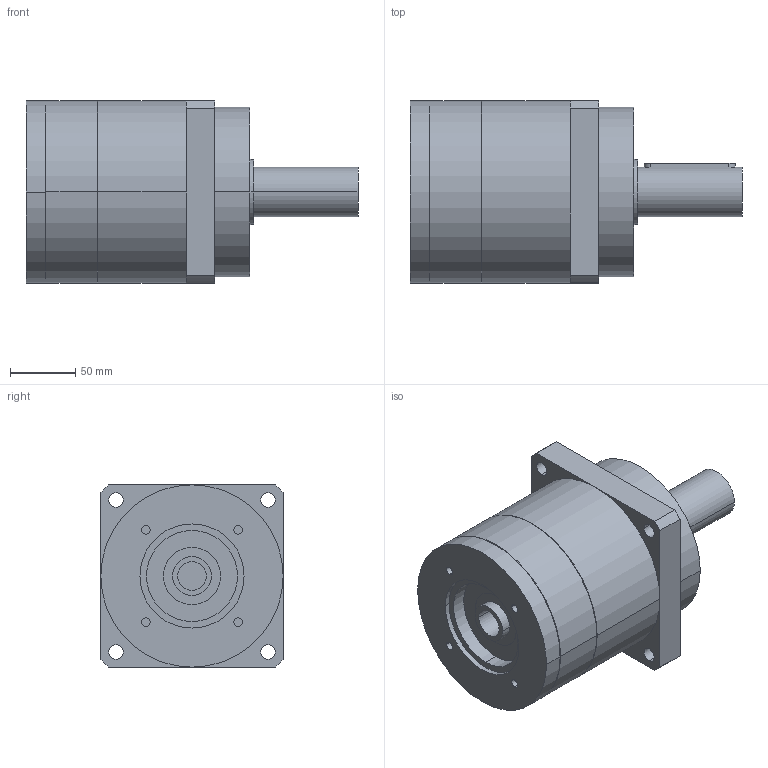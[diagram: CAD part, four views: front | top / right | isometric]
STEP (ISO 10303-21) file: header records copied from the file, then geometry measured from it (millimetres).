
FILE_DESCRIPTION(('CoCreate Modeling STEP Export'),'2;1');
FILE_NAME('GPR150_ig-3-4-5-7_38_B5_22_P02.stp','2014-08-26T15:29:10',(''),(''),'CoCreate Modeling STEP processor for AP214 (Solid Model)','CoCreate Modeling 16.00C 25-Feb-2009 (C) Parametric Technology GmbH','');
FILE_SCHEMA(('AUTOMOTIVE_DESIGN { 1 0 10303 214 1 1 1 1 }'));
Length unit declared in the file: millimetre
Products named in the file (2): GPR150_ig-3-4-5-7_38_B5_22_P02
Assembly tree (1 placements, depth 2):
  GPR150_ig-3-4-5-7_38_B5_22_P02
    GPR150_ig-3-4-5-7_38_B5_22_P02
Bounding box: 255 x 140 x 140 mm (x, y, z)
Volume: 2689866.4 mm3; surface area: 139726.6 mm2
Topology: 1 solids, 1 shells, 91 faces, 227 edges, 155 vertices
Faces by surface type: cylinder 54, plane 31, cone 6
Entity records: 2377 total; most frequent: ORIENTED_EDGE 450, CARTESIAN_POINT 433, DIRECTION 330, EDGE_CURVE 225, VERTEX_POINT 155, AXIS2_PLACEMENT_3D 124, EDGE_LOOP 118, FACE_OUTER_BOUND 91
